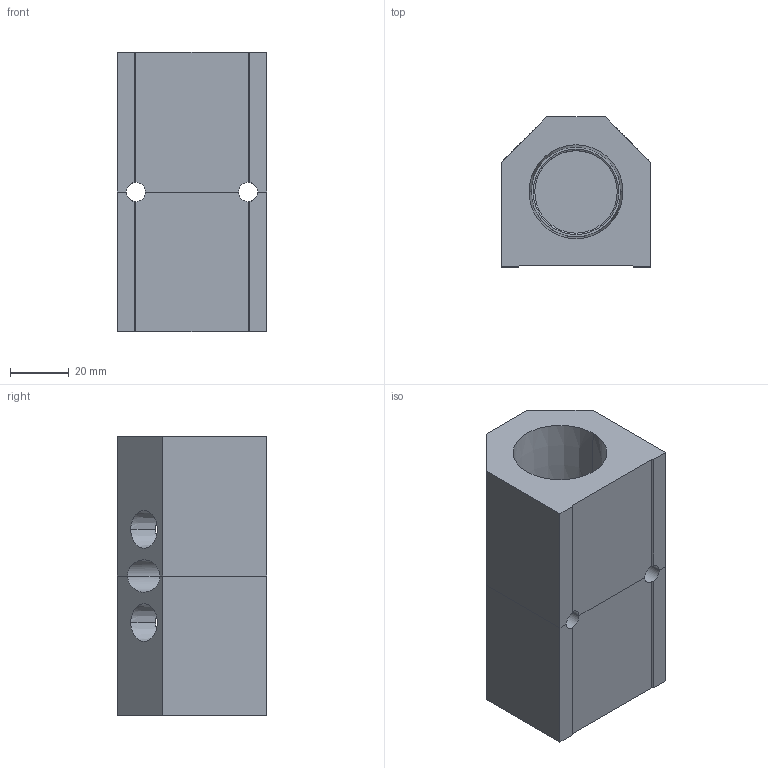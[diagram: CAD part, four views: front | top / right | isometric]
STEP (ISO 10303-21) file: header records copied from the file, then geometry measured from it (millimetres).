
FILE_DESCRIPTION (( 'STEP AP214' ), '1' );
FILE_NAME ('ALM2BCD-N4N16-95RB.STEP', '2023-11-02T06:07:30', ( '' ), ( '' ), 'SwSTEP 2.0', 'SolidWorks 2020', '' );
FILE_SCHEMA (( 'AUTOMOTIVE_DESIGN' ));
Length unit declared in the file: millimetre
Products named in the file (1): ALM2BCD-N4N16-95RB
Bounding box: 50.8 x 50.8 x 95 mm (x, y, z)
Volume: 144157.1 mm3; surface area: 37219.1 mm2
Topology: 2 solids, 2 shells, 343 faces, 893 edges, 592 vertices
Faces by surface type: plane 231, bspline 72, cylinder 20, cone 20
Entity records: 18565 total; most frequent: CARTESIAN_POINT 7515, ORIENTED_EDGE 1786, DIRECTION 1327, EDGE_CURVE 893, LINE 671, VECTOR 671, VERTEX_POINT 592, EDGE_LOOP 393
